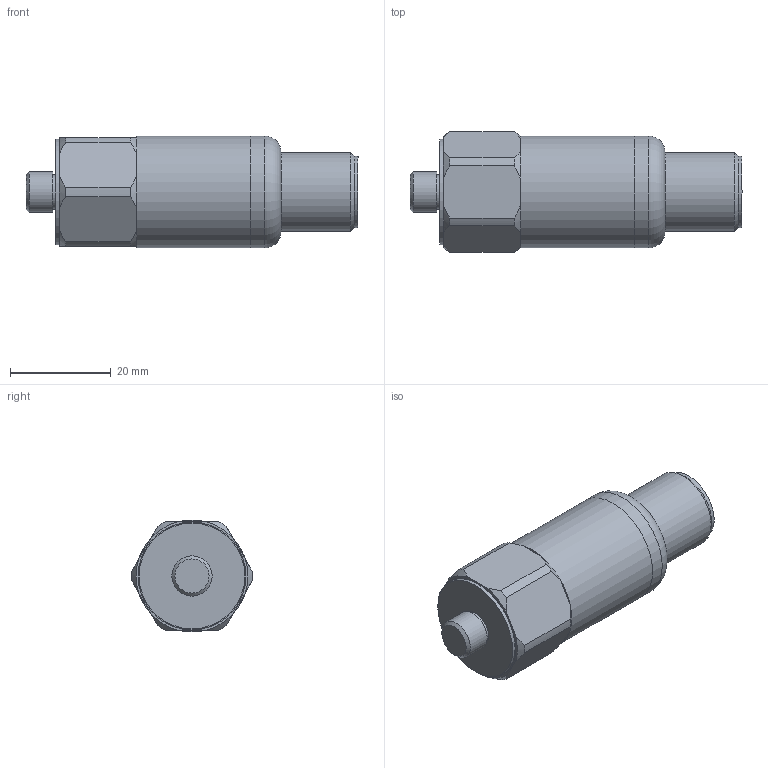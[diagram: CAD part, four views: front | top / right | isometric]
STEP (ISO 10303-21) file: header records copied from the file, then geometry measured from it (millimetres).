
FILE_DESCRIPTION(/* description */ (''),/* implementation_level */ '2;1');
FILE_NAME(/* name */ 'Z:\Engineering\Drawings\3D Library\Assemblies\Website\Premium Top\HS-150 Top 2 Pin MS\HS-150XXX5008.stp',/* time_stamp */ '2023-03-12T11:04:03+00:00',/* author */ ('Ricardo.Peneda'),/* organization */ (''),/* preprocessor_version */ 'ST-DEVELOPER v18.1',/* originating_system */ 'Autodesk Inventor 2021',/* authorisation */ '');
FILE_SCHEMA (('AUTOMOTIVE_DESIGN { 1 0 10303 214 3 1 1 }'));
Length unit declared in the file: inch
Products named in the file (1): HS-150XXX5008_Shrinkwrap_1
Bounding box: 65.92 x 23.99 x 22.2 mm (x, y, z)
Volume: 14455.2 mm3; surface area: 7661.9 mm2
Topology: 3 solids, 3 shells, 64 faces, 167 edges, 120 vertices
Faces by surface type: plane 29, cylinder 22, cone 12, torus 1
Full cylindrical faces by diameter (mm): 5 x1, 5.359 x1, 6.35 x1, 6.8 x1, 7 x1, 7.5 x1, 8 x1, 11.37 x1, 14.28 x1, 15.055 x1, 15.7 x1, 19 x1, 20 x1, 21 x1, 22.2 x2
Entity records: 2131 total; most frequent: CARTESIAN_POINT 399, DIRECTION 368, ORIENTED_EDGE 332, EDGE_CURVE 166, AXIS2_PLACEMENT_3D 161, VERTEX_POINT 120, CIRCLE 96, EDGE_LOOP 76
